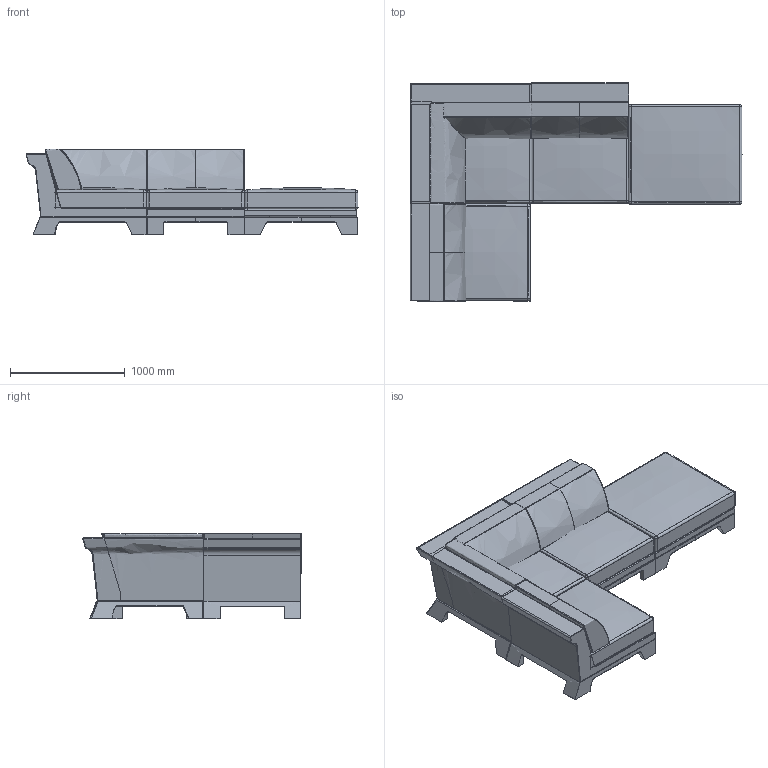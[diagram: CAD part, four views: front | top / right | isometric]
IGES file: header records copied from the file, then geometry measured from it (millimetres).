
Global section: file name: C:\Users\market02\Desktop\RYAN\PATT\FPATTCOM011_COMPOSITION 11_PATT\exportation\FPATTCOM002_COMPOSITION 11_PATT.igs; native system: Rhinoceros ( Dec 14 2021 ); preprocessor: Trout Lake IGES 012 Dec 14 2021; date: 220131.101956; units: millimetre
Bounding box: 2898 x 1909.03 x 748.26 mm (x, y, z)
Surface area: 31818411.1 mm2 (no closed solid volume)
Topology: 0 solids, 0 shells, 635 faces, 7171 edges, 7163 vertices
Faces by surface type: bspline 635
